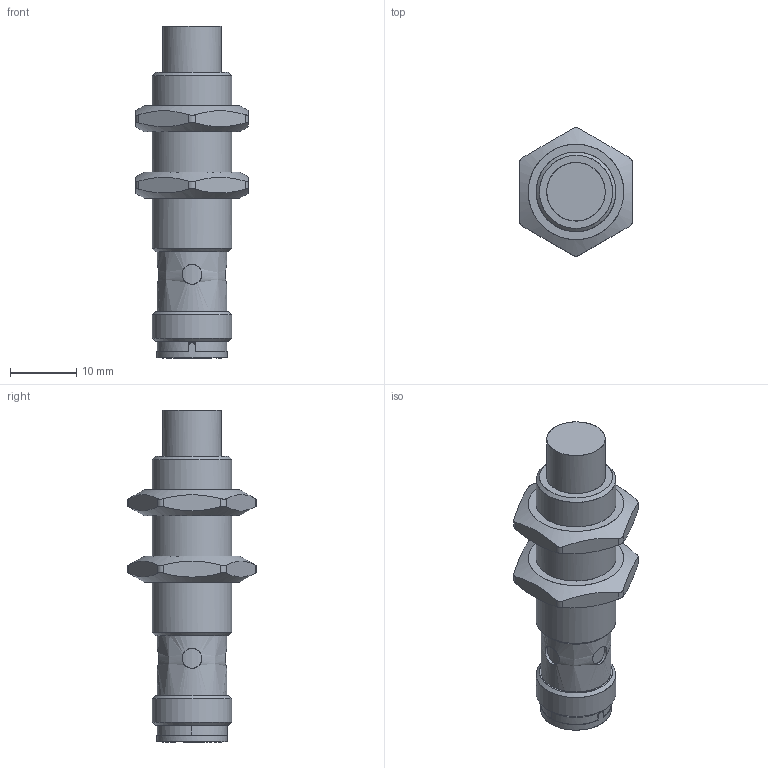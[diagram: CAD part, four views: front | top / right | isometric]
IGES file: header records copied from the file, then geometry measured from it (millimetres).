
Global section: file name: H:\lem\3DCAD_IS C12MM_xxx_xNx_M12.igs; native system: NX V11.0; preprocessor: SIEMENS PLM Software NX 11.0; date: 20210917.131715; units: millimetre
Bounding box: 17 x 19.33 x 50 mm (x, y, z)
Surface area: 3644.1 mm2 (no closed solid volume)
Topology: 0 solids, 0 shells, 104 faces, 951 edges, 916 vertices
Faces by surface type: bspline 104
